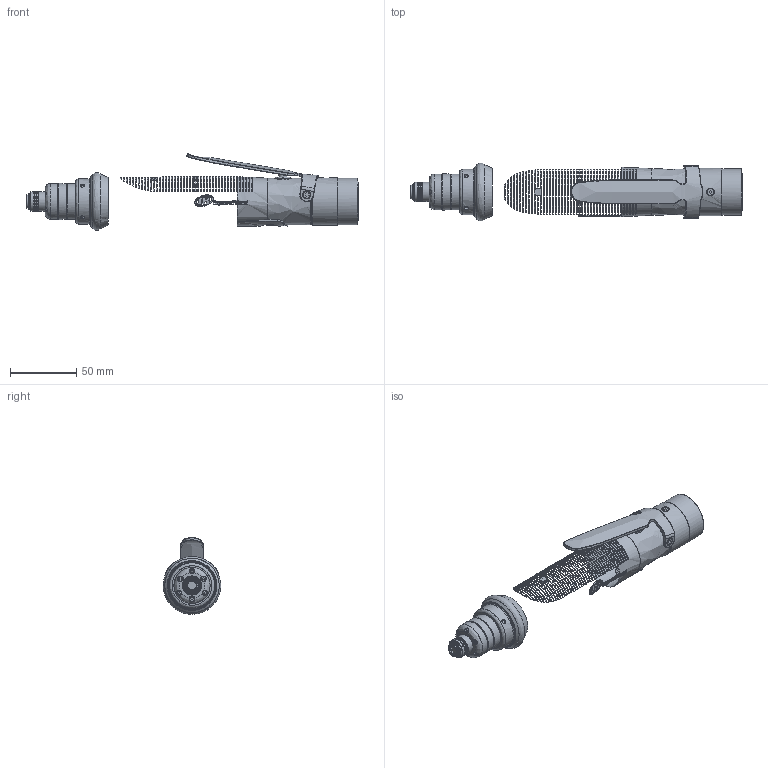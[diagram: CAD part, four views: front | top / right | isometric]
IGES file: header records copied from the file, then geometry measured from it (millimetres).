
Global section: file name: G:\Eng_Shared\PF\SURF MODELS\QE-QM\QE\QE2\Inline Lever\16610537_A.igs; native system: NX V4.0; preprocessor: UGS NX IGES V4.0; date: 20090218.102255; units: millimetre
Bounding box: 249.79 x 43.45 x 57.77 mm (x, y, z)
Surface area: 33936.5 mm2 (no closed solid volume)
Topology: 0 solids, 0 shells, 1082 faces, 6877 edges, 6638 vertices
Faces by surface type: bspline 1080, offset 2
